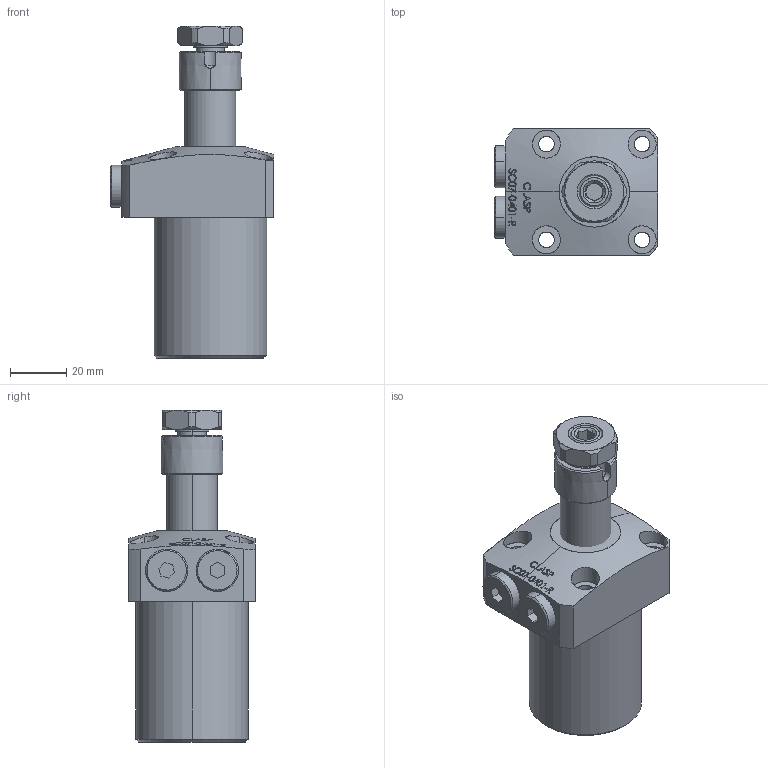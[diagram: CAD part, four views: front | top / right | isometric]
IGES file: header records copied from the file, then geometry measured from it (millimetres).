
Start section: SolidWorks IGES file using analytic representation for surfaces
Global section: file name: D:\karuppas\Clasp\3D model\SWING CYLINDER\Top Mounting swing cylinder\SC07-0401-R\SC07-0401-R.IGS; native system: SolidWorks 2017; preprocessor: SolidWorks 2017; author: pc; date: 220705.231853; units: millimetre
Bounding box: 58 x 45 x 118 mm (x, y, z)
Surface area: 27776.9 mm2 (no closed solid volume)
Topology: 0 solids, 0 shells, 362 faces, 5907 edges, 5907 vertices
Faces by surface type: bspline 250, revolution 112
